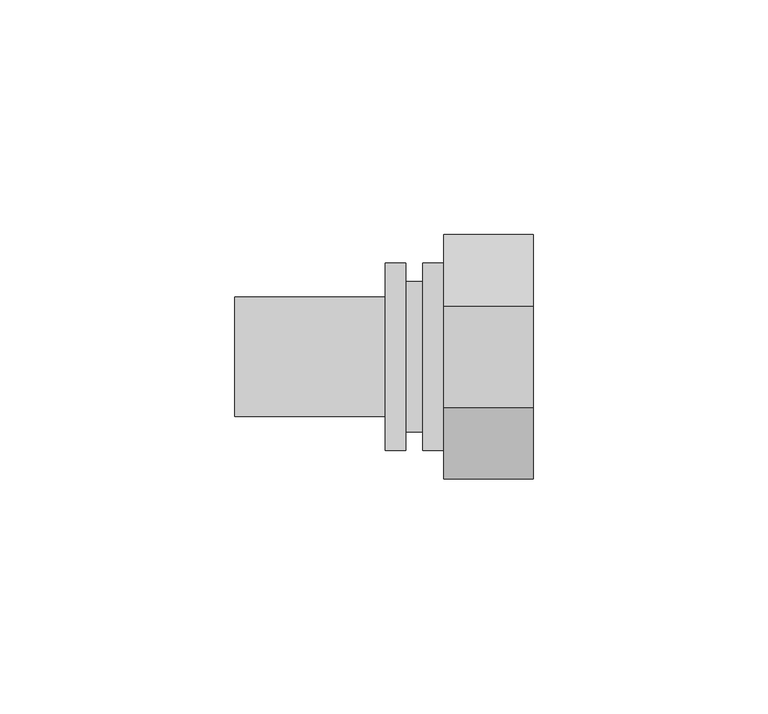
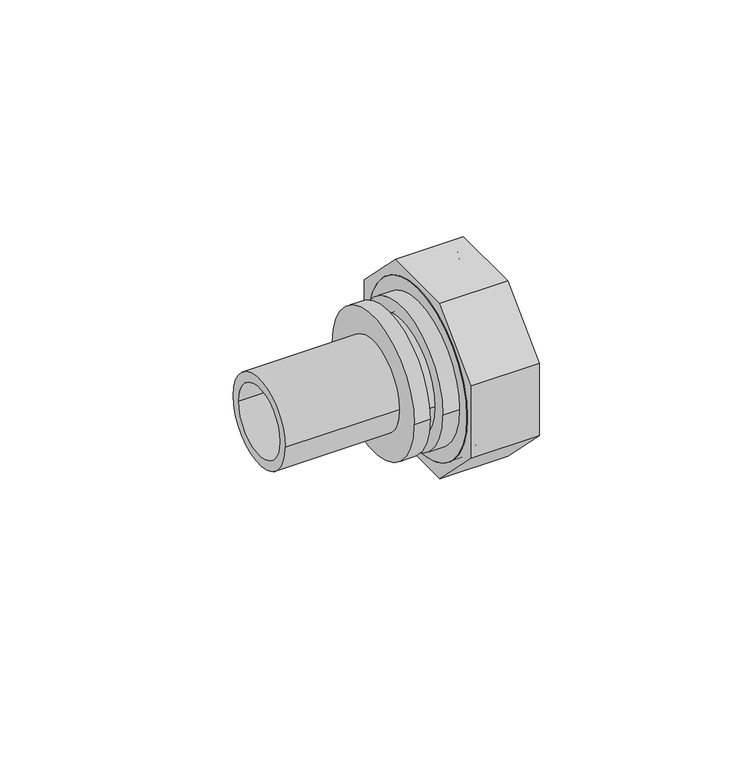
"""IFC4 building model written with IfcOpenShell, lengths in millimetres: pipe fitting geometry, REHAU_RAUTITAN_Adaptor_RX+_union nut : REHAU_RAUTITAN_Adaptor_RX+_union nut."""

from ifc_helpers import new_model, si_unit, point, frame, origin, origin_2d, place, context, project, spatial, polyline, circle_curve, trimmed, segment, composite_curve, outline, extrude, source, transform, mapped, element, save
from ifc_brep_helpers import plane_surface, cylinder_surface, revolved_surface, advanced_brep


def pipe_fitting_5bd059d2(model_context):
    return source(origin(), model_context, "Body", "SolidModel", [
        advanced_brep(
        [(0.0, 16.0, 0.0), (0.0, -16.0, 0.0), (-3.6, -16.0, 0.0), (-3.6, 16.0, 0.0), (-40.0, 10.0, 0.0), (-40.0, -10.0, 0.0), (0.0, -10.0, 0.0), (0.0, 10.0, 0.0), (-8.0, 12.725, 0.0), (-8.0, -12.725, 0.0), (-40.0, -12.725, 0.0), (-40.0, 12.725, 0.0), (-3.6, 20.0, 0.0), (-3.6, -20.0, 0.0), (-8.0, -20.0, 0.0), (-8.0, 20.0, 0.0)],
        [
            (0, 1, circle_curve(frame((0.0, 0.0, 0.0), z_axis=(-1.0, 0.0, 0.0), x_axis=(0.0, -1.0, 0.0)), 16.0)),
            (1, 2),
            (2, 3, circle_curve(frame((-3.6, 0.0, 0.0), z_axis=(1.0, 0.0, 0.0), x_axis=(0.0, -1.0, 0.0)), 16.0)),
            (3, 0),
            (4, 5, circle_curve(frame((-40.0, 0.0, 0.0), z_axis=(-1.0, 0.0, 0.0), x_axis=(0.0, -1.0, 0.0)), 10.0)),
            (5, 6),
            (6, 7, circle_curve(frame((0.0, 0.0, 0.0), z_axis=(1.0, 0.0, 0.0), x_axis=(0.0, -1.0, 0.0)), 10.0)),
            (7, 4),
            (8, 9, circle_curve(frame((-8.0, 0.0, 0.0), z_axis=(-1.0, 0.0, 0.0), x_axis=(0.0, -1.0, 0.0)), 12.725)),
            (9, 10),
            (10, 11, circle_curve(frame((-40.0, 0.0, 0.0), z_axis=(1.0, 0.0, 0.0), x_axis=(0.0, -1.0, 0.0)), 12.725)),
            (11, 8),
            (12, 13, circle_curve(frame((-3.6, 0.0, 0.0), z_axis=(-1.0, 0.0, 0.0), x_axis=(0.0, -1.0, 0.0)), 20.0)),
            (13, 14),
            (14, 15, circle_curve(frame((-8.0, 0.0, 0.0), z_axis=(1.0, 0.0, 0.0), x_axis=(0.0, -1.0, 0.0)), 20.0)),
            (15, 12),
            (1, 0, circle_curve(frame((0.0, 0.0, 0.0), z_axis=(-1.0, 0.0, 0.0), x_axis=(0.0, 1.0, 0.0)), 16.0)),
            (3, 2, circle_curve(frame((-3.6, 0.0, 0.0), z_axis=(1.0, 0.0, 0.0), x_axis=(0.0, 1.0, 0.0)), 16.0)),
            (6, 7, circle_curve(frame((0.0, 0.0, 0.0), z_axis=(-1.0, 0.0, 0.0), x_axis=(0.0, 1.0, 0.0)), 10.0)),
            (5, 4, circle_curve(frame((-40.0, 0.0, 0.0), z_axis=(-1.0, 0.0, 0.0), x_axis=(0.0, 1.0, 0.0)), 10.0)),
            (10, 11, circle_curve(frame((-40.0, 0.0, 0.0), z_axis=(-1.0, 0.0, 0.0), x_axis=(0.0, 1.0, 0.0)), 12.725)),
            (9, 8, circle_curve(frame((-8.0, 0.0, 0.0), z_axis=(-1.0, 0.0, 0.0), x_axis=(0.0, 1.0, 0.0)), 12.725)),
            (14, 15, circle_curve(frame((-8.0, 0.0, 0.0), z_axis=(-1.0, 0.0, 0.0), x_axis=(0.0, 1.0, 0.0)), 20.0)),
            (13, 12, circle_curve(frame((-3.6, 0.0, 0.0), z_axis=(-1.0, 0.0, 0.0), x_axis=(0.0, 1.0, 0.0)), 20.0)),
        ],
        [
            cylinder_surface(frame((0.0, 0.0, 0.0), z_axis=(1.0, 0.0, 0.0), x_axis=(0.0, -1.0, 0.0)), 16.0),
            revolved_surface(polyline([(0.0, -10.0, 0.0), (-40.0, -10.0, 0.0)]), (0.0, 0.0, 0.0), (1.0, 0.0, 0.0)),
            cylinder_surface(frame((0.0, 0.0, 0.0), z_axis=(1.0, 0.0, 0.0), x_axis=(0.0, -1.0, 0.0)), 12.725),
            cylinder_surface(frame((0.0, 0.0, 0.0), z_axis=(1.0, 0.0, 0.0), x_axis=(0.0, -1.0, 0.0)), 20.0),
            cylinder_surface(frame((0.0, 0.0, 0.0), z_axis=(1.0, 0.0, 0.0), x_axis=(0.0, 1.0, 0.0)), 16.0),
            plane_surface(frame((0.0, 0.0, 0.0), z_axis=(1.0, 0.0, 0.0), x_axis=(0.0, 1.0, 0.0))),
            revolved_surface(polyline([(0.0, 10.0, 0.0), (-40.0, 10.0, 0.0)]), (0.0, 0.0, 0.0), (1.0, 0.0, 0.0)),
            plane_surface(frame((-40.0, 0.0, 0.0), z_axis=(-1.0, 0.0, 0.0), x_axis=(0.0, 1.0, 0.0))),
            cylinder_surface(frame((0.0, 0.0, 0.0), z_axis=(1.0, 0.0, 0.0), x_axis=(0.0, 1.0, 0.0)), 12.725),
            plane_surface(frame((-8.0, 0.0, 0.0), z_axis=(-1.0, 0.0, 0.0), x_axis=(0.0, 1.0, 0.0))),
            cylinder_surface(frame((0.0, 0.0, 0.0), z_axis=(1.0, 0.0, 0.0), x_axis=(0.0, 1.0, 0.0)), 20.0),
            plane_surface(frame((-3.6, 0.0, 0.0), z_axis=(1.0, 0.0, 0.0), x_axis=(0.0, 1.0, 0.0))),
        ],
        [
            (0, [[1, 2, 3, 4]]),
            (1, [[5, 6, 7, 8]]),
            (2, [[9, 10, 11, 12]]),
            (3, [[13, 14, 15, 16]]),
            (4, [[17, -4, 18, -2]]),
            (5, [[-17, -1], [19, -7]]),
            (6, [[20, -8, -19, -6]]),
            (7, [[21, -11], [-20, -5]]),
            (8, [[22, -12, -21, -10]]),
            (9, [[23, -15], [-22, -9]]),
            (10, [[24, -16, -23, -14]]),
            (11, [[-24, -13], [-18, -3]]),
        ],
    ),
        advanced_brep(
        [(8.0, 20.0, 0.0), (8.0, -20.0, 0.0), (0.0, -20.0, 0.0), (0.0, 20.0, 0.0), (12.0, 22.25, 0.0), (12.0, -22.25, 0.0), (8.0, -22.25, 0.0), (8.0, 22.25, 0.0), (1.4730817, 15.0, 0.0), (1.4730817, -15.0, 0.0), (12.0, -15.0, 0.0), (12.0, 15.0, 0.0), (0.0, 12.8264556, 0.0), (0.0, -12.8264556, 0.0), (1.4730817, -12.8264556, 0.0), (1.4730817, 12.8264556, 0.0)],
        [
            (0, 1, circle_curve(frame((8.0, 0.0, 0.0), z_axis=(-1.0, 0.0, 0.0), x_axis=(0.0, -1.0, 0.0)), 20.0)),
            (1, 2),
            (2, 3, circle_curve(frame((0.0, 0.0, 0.0), z_axis=(1.0, 0.0, 0.0), x_axis=(0.0, -1.0, 0.0)), 20.0)),
            (3, 0),
            (4, 5, circle_curve(frame((12.0, 0.0, 0.0), z_axis=(-1.0, 0.0, 0.0), x_axis=(0.0, -1.0, 0.0)), 22.25)),
            (5, 6),
            (6, 7, circle_curve(frame((8.0, 0.0, 0.0), z_axis=(1.0, 0.0, 0.0), x_axis=(0.0, -1.0, 0.0)), 22.25)),
            (7, 4),
            (8, 9, circle_curve(frame((1.4730817, 0.0, 0.0), z_axis=(-1.0, 0.0, 0.0), x_axis=(0.0, -1.0, 0.0)), 15.0)),
            (9, 10),
            (10, 11, circle_curve(frame((12.0, 0.0, 0.0), z_axis=(1.0, 0.0, 0.0), x_axis=(0.0, -1.0, 0.0)), 15.0)),
            (11, 8),
            (2, 3, circle_curve(frame((0.0, 0.0, 0.0), z_axis=(-1.0, 0.0, 0.0), x_axis=(0.0, 1.0, 0.0)), 20.0)),
            (12, 13, circle_curve(frame((0.0, 0.0, 0.0), z_axis=(1.0, 0.0, 0.0), x_axis=(0.0, 1.0, 0.0)), 12.8264556)),
            (13, 12, circle_curve(frame((0.0, 0.0, 0.0), z_axis=(1.0, 0.0, 0.0), x_axis=(0.0, -1.0, 0.0)), 12.8264556)),
            (1, 0, circle_curve(frame((8.0, 0.0, 0.0), z_axis=(-1.0, 0.0, 0.0), x_axis=(0.0, 1.0, 0.0)), 20.0)),
            (6, 7, circle_curve(frame((8.0, 0.0, 0.0), z_axis=(-1.0, 0.0, 0.0), x_axis=(0.0, 1.0, 0.0)), 22.25)),
            (5, 4, circle_curve(frame((12.0, 0.0, 0.0), z_axis=(-1.0, 0.0, 0.0), x_axis=(0.0, 1.0, 0.0)), 22.25)),
            (10, 11, circle_curve(frame((12.0, 0.0, 0.0), z_axis=(-1.0, 0.0, 0.0), x_axis=(0.0, 1.0, 0.0)), 15.0)),
            (9, 8, circle_curve(frame((1.4730817, 0.0, 0.0), z_axis=(-1.0, 0.0, 0.0), x_axis=(0.0, 1.0, 0.0)), 15.0)),
            (13, 14),
            (14, 15, circle_curve(frame((1.4730817, 0.0, 0.0), z_axis=(1.0, 0.0, 0.0), x_axis=(0.0, -1.0, 0.0)), 12.8264556)),
            (15, 12),
            (14, 15, circle_curve(frame((1.4730817, 0.0, 0.0), z_axis=(-1.0, 0.0, 0.0), x_axis=(0.0, 1.0, 0.0)), 12.8264556)),
        ],
        [
            cylinder_surface(frame((0.0, 0.0, 0.0), z_axis=(1.0, 0.0, 0.0), x_axis=(0.0, -1.0, 0.0)), 20.0),
            cylinder_surface(frame((0.0, 0.0, 0.0), z_axis=(1.0, 0.0, 0.0), x_axis=(0.0, -1.0, 0.0)), 22.25),
            revolved_surface(polyline([(12.0, -15.0, 0.0), (1.4730817, -15.0, 0.0)]), (0.0, 0.0, 0.0), (1.0, 0.0, 0.0)),
            plane_surface(frame((0.0, 0.0, 0.0), z_axis=(-1.0, 0.0, 0.0), x_axis=(0.0, 1.0, 0.0))),
            cylinder_surface(frame((0.0, 0.0, 0.0), z_axis=(1.0, 0.0, 0.0), x_axis=(0.0, 1.0, 0.0)), 20.0),
            plane_surface(frame((8.0, 0.0, 0.0), z_axis=(-1.0, 0.0, 0.0), x_axis=(0.0, 1.0, 0.0))),
            cylinder_surface(frame((0.0, 0.0, 0.0), z_axis=(1.0, 0.0, 0.0), x_axis=(0.0, 1.0, 0.0)), 22.25),
            plane_surface(frame((12.0, 0.0, 0.0), z_axis=(1.0, 0.0, 0.0), x_axis=(0.0, 1.0, 0.0))),
            revolved_surface(polyline([(12.0, 15.0, 0.0), (1.4730817, 15.0, 0.0)]), (0.0, 0.0, 0.0), (1.0, 0.0, 0.0)),
            revolved_surface(polyline([(1.4730817, -12.8264556, 0.0), (0.0, -12.8264556, 0.0)]), (0.0, 0.0, 0.0), (1.0, 0.0, 0.0)),
            plane_surface(frame((1.4730817, 0.0, 0.0), z_axis=(1.0, 0.0, 0.0), x_axis=(0.0, 1.0, 0.0))),
            revolved_surface(polyline([(1.4730817, 12.8264556, 0.0), (0.0, 12.8264556, 0.0)]), (0.0, 0.0, 0.0), (1.0, 0.0, 0.0)),
        ],
        [
            (0, [[1, 2, 3, 4]]),
            (1, [[5, 6, 7, 8]]),
            (2, [[9, 10, 11, 12]]),
            (3, [[13, -3], [14, 15]]),
            (4, [[16, -4, -13, -2]]),
            (5, [[17, -7], [-16, -1]]),
            (6, [[18, -8, -17, -6]]),
            (7, [[-18, -5], [19, -11]]),
            (8, [[20, -12, -19, -10]]),
            (9, [[-15, 21, 22, 23]]),
            (10, [[-20, -9], [24, -22]]),
            (11, [[-14, -23, -24, -21]]),
        ],
    ),
        advanced_brep(
        [(23.5, 23.9, 0.0), (23.5, -23.9, 0.0), (4.5, -23.9, 0.0), (4.5, 23.9, 0.0), (8.0, 22.25, 0.0), (8.0, -22.25, 0.0), (23.5, -22.25, 0.0), (23.5, 22.25, 0.0), (4.5, 18.75, 0.0), (4.5, -18.75, 0.0), (8.0, -18.75, 0.0), (8.0, 18.75, 0.0)],
        [
            (0, 1, circle_curve(frame((23.5, 0.0, 0.0), z_axis=(-1.0, 0.0, 0.0), x_axis=(0.0, -1.0, 0.0)), 23.9)),
            (1, 2),
            (2, 3, circle_curve(frame((4.5, 0.0, 0.0), z_axis=(1.0, 0.0, 0.0), x_axis=(0.0, -1.0, 0.0)), 23.9)),
            (3, 0),
            (4, 5, circle_curve(frame((8.0, 0.0, 0.0), z_axis=(-1.0, 0.0, 0.0), x_axis=(0.0, -1.0, 0.0)), 22.25)),
            (5, 6),
            (6, 7, circle_curve(frame((23.5, 0.0, 0.0), z_axis=(1.0, 0.0, 0.0), x_axis=(0.0, -1.0, 0.0)), 22.25)),
            (7, 4),
            (8, 9, circle_curve(frame((4.5, 0.0, 0.0), z_axis=(-1.0, 0.0, 0.0), x_axis=(0.0, -1.0, 0.0)), 18.75)),
            (9, 10),
            (10, 11, circle_curve(frame((8.0, 0.0, 0.0), z_axis=(1.0, 0.0, 0.0), x_axis=(0.0, -1.0, 0.0)), 18.75)),
            (11, 8),
            (1, 0, circle_curve(frame((23.5, 0.0, 0.0), z_axis=(-1.0, 0.0, 0.0), x_axis=(0.0, 1.0, 0.0)), 23.9)),
            (3, 2, circle_curve(frame((4.5, 0.0, 0.0), z_axis=(1.0, 0.0, 0.0), x_axis=(0.0, 1.0, 0.0)), 23.9)),
            (6, 7, circle_curve(frame((23.5, 0.0, 0.0), z_axis=(-1.0, 0.0, 0.0), x_axis=(0.0, 1.0, 0.0)), 22.25)),
            (5, 4, circle_curve(frame((8.0, 0.0, 0.0), z_axis=(-1.0, 0.0, 0.0), x_axis=(0.0, 1.0, 0.0)), 22.25)),
            (10, 11, circle_curve(frame((8.0, 0.0, 0.0), z_axis=(-1.0, 0.0, 0.0), x_axis=(0.0, 1.0, 0.0)), 18.75)),
            (9, 8, circle_curve(frame((4.5, 0.0, 0.0), z_axis=(-1.0, 0.0, 0.0), x_axis=(0.0, 1.0, 0.0)), 18.75)),
        ],
        [
            cylinder_surface(frame((0.0, 0.0, 0.0), z_axis=(1.0, 0.0, 0.0), x_axis=(0.0, -1.0, 0.0)), 23.9),
            revolved_surface(polyline([(23.5, -22.25, 0.0), (8.0, -22.25, 0.0)]), (0.0, 0.0, 0.0), (1.0, 0.0, 0.0)),
            revolved_surface(polyline([(8.0, -18.75, 0.0), (4.5, -18.75, 0.0)]), (0.0, 0.0, 0.0), (1.0, 0.0, 0.0)),
            cylinder_surface(frame((0.0, 0.0, 0.0), z_axis=(1.0, 0.0, 0.0), x_axis=(0.0, 1.0, 0.0)), 23.9),
            plane_surface(frame((23.5, 0.0, 0.0), z_axis=(1.0, 0.0, 0.0), x_axis=(0.0, 1.0, 0.0))),
            revolved_surface(polyline([(23.5, 22.25, 0.0), (8.0, 22.25, 0.0)]), (0.0, 0.0, 0.0), (1.0, 0.0, 0.0)),
            plane_surface(frame((8.0, 0.0, 0.0), z_axis=(1.0, 0.0, 0.0), x_axis=(0.0, 1.0, 0.0))),
            revolved_surface(polyline([(8.0, 18.75, 0.0), (4.5, 18.75, 0.0)]), (0.0, 0.0, 0.0), (1.0, 0.0, 0.0)),
            plane_surface(frame((4.5, 0.0, 0.0), z_axis=(-1.0, 0.0, 0.0), x_axis=(0.0, 1.0, 0.0))),
        ],
        [
            (0, [[1, 2, 3, 4]]),
            (1, [[5, 6, 7, 8]]),
            (2, [[9, 10, 11, 12]]),
            (3, [[13, -4, 14, -2]]),
            (4, [[-13, -1], [15, -7]]),
            (5, [[16, -8, -15, -6]]),
            (6, [[-16, -5], [17, -11]]),
            (7, [[18, -12, -17, -10]]),
            (8, [[-14, -3], [-18, -9]]),
        ],
    ),
        extrude(outline(polyline([(-10.7695526, -26.0), (-26.0, -10.7695526), (-26.0, 10.7695526), (-10.7695526, 26.0), (10.7695526, 26.0), (26.0, 10.7695526), (26.0, -10.7695526), (10.7695526, -26.0), (-10.7695526, -26.0)]), holes=[composite_curve([segment(trimmed(circle_curve(origin_2d(), 23.9), [point((-23.9, 0.0))], [point((23.9, 0.0))], True, "CARTESIAN"), True, "CONTINUOUS"), segment(trimmed(circle_curve(origin_2d(), 23.9), [point((23.9, 0.0))], [point((-23.9, 0.0))], True, "CARTESIAN"), True, "CONTINUOUS")], self_intersect=False)]), frame((4.5, 0.0, 0.0), z_axis=(1.0, 0.0, 0.0), x_axis=(0.0, 1.0, 0.0)), (0.0, 0.0, 1.0), 19.0),
    ])


if __name__ == "__main__":
    model = new_model("IFC4")
    model_context = context("Model", 3, world=origin())
    ifc_project = project(units=[si_unit("LENGTHUNIT", "METRE", prefix="MILLI")], contexts=[model_context])
    site = spatial("IfcSite", under=ifc_project)
    building = spatial("IfcBuilding", under=site)
    placement = place(None, origin())
    pipe_fitting_shape = pipe_fitting_5bd059d2(model_context)
    element("IfcPipeFitting", 1, ObjectType="REHAU_RAUTITAN_Adaptor_RX+_union nut : REHAU_RAUTITAN_Adaptor_RX+_union nut", at=placement, inside=building, context=model_context, shape_type="MappedRepresentation", body=[
        mapped(pipe_fitting_shape, transform((0.0, 0.0, 0.0), x_axis=(1.0, 0.0, 0.0), y_axis=(0.0, 1.0, 0.0), z_axis=(0.0, 0.0, 1.0))),
    ])
    save(model, "model.ifc")
